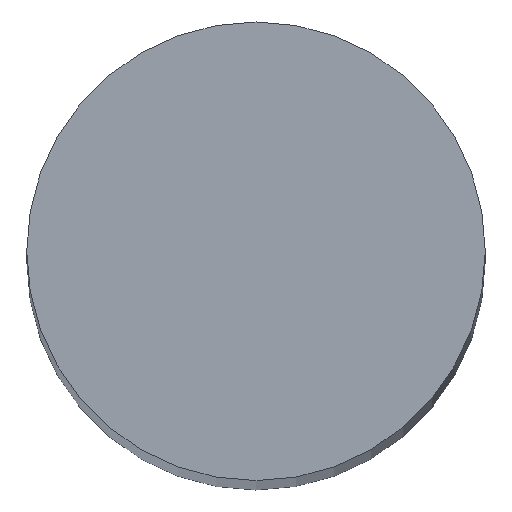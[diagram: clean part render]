
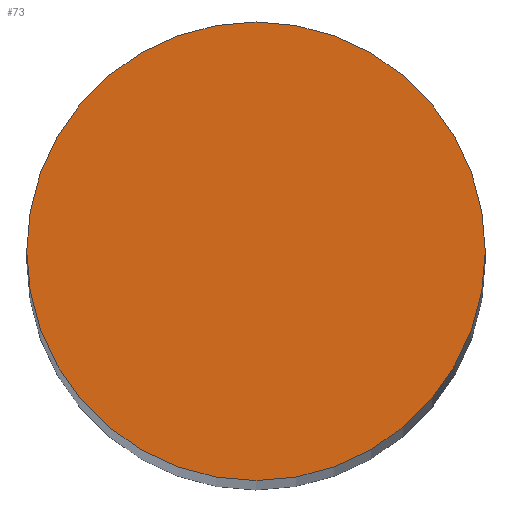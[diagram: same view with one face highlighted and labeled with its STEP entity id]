
A CAD part, top view. The second image highlights one B-rep face of the part: STEP entity #73.
In plain terms, the highlighted planar face has unit normal (0, 0, 1).
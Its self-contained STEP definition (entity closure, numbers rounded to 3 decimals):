
#7 = VERTEX_POINT ( 'NONE', #10 ) ;
#9 = VERTEX_POINT ( 'NONE', #11 ) ;
#10 = CARTESIAN_POINT ( 'NONE',  ( -6., 0., 70.5 ) ) ;
#11 = CARTESIAN_POINT ( 'NONE',  ( 6., 0., 70.5 ) ) ;
#29 = CARTESIAN_POINT ( 'NONE',  ( 0., 0., 70.5 ) ) ;
#30 = PLANE ( 'NONE',  #121 ) ;
#32 = DIRECTION ( 'NONE',  ( 0., 0., 1. ) ) ;
#33 = DIRECTION ( 'NONE',  ( 1., 0., 0. ) ) ;
#35 = CARTESIAN_POINT ( 'NONE',  ( 0., 0., 70.5 ) ) ;
#38 = CARTESIAN_POINT ( 'NONE',  ( 0., 0., 70.5 ) ) ;
#39 = DIRECTION ( 'NONE',  ( 0., 0., 1. ) ) ;
#40 = DIRECTION ( 'NONE',  ( 1., 0., 0. ) ) ;
#47 = DIRECTION ( 'NONE',  ( 0., 0., 1. ) ) ;
#48 = DIRECTION ( 'NONE',  ( 1., 0., 0. ) ) ;
#73 = ADVANCED_FACE ( 'NONE', ( #77 ), #30, .T. ) ;
#74 = EDGE_LOOP ( 'NONE', ( #91, #90 ) ) ;
#77 = FACE_OUTER_BOUND ( 'NONE', #74, .T. ) ;
#90 = ORIENTED_EDGE ( 'NONE', *, *, #138, .T. ) ;
#91 = ORIENTED_EDGE ( 'NONE', *, *, #135, .T. ) ;
#107 = CIRCLE ( 'NONE', #118, 6. ) ;
#110 = CIRCLE ( 'NONE', #122, 6. ) ;
#118 = AXIS2_PLACEMENT_3D ( 'NONE', #38, #39, #40 ) ;
#121 = AXIS2_PLACEMENT_3D ( 'NONE', #29, #32, #33 ) ;
#122 = AXIS2_PLACEMENT_3D ( 'NONE', #35, #47, #48 ) ;
#135 = EDGE_CURVE ( 'NONE', #7, #9, #107, .T. ) ;
#138 = EDGE_CURVE ( 'NONE', #9, #7, #110, .T. ) ;
